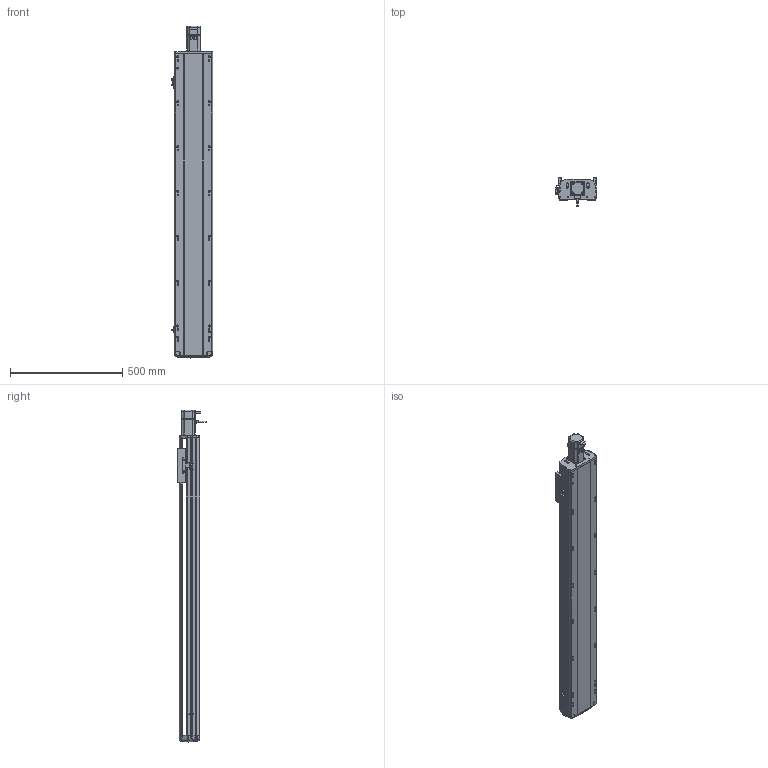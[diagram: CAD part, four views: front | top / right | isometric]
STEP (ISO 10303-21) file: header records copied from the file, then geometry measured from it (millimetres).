
FILE_DESCRIPTION (( 'STEP AP214' ), '1' );
FILE_NAME ('RTH17-XX-1100-E-M40-C4.STEP', '2025-10-24T05:45:31', ( '' ), ( '' ), 'SwSTEP 2.0', 'SolidWorks 2018', '' );
FILE_SCHEMA (( 'AUTOMOTIVE_DESIGN' ));
Length unit declared in the file: millimetre
Products named in the file (9): N_OMRON EE-SX672 換覜ん^RTH17-XX-XX-E-M40-C4ㄗ源最宒ㄘ; N_M40^RTH17-XX-XX-E-M40-C4（方程式）; N_RTH17-E-008-P40电机板^RTH17-XX-XX-E-M40-C4（方程式）; N_RTH17-E-004丝杆螺母连接座^RTH17-XX-XX-E-M40-C4（方程式）; RTH17-XX-1100-E-M40-C4; N_RTH17-E-011底座^RTH17-XX-XX-E-M40-C4（方程式）; N_RTH17-E-007上盖^RTH17-XX-XX-E-M40-C4（方程式）; N_RTH17-GY-001P^RTH17-XX-XX-E-M40-C4（方程式）; N_RTH-BL-012 感应片(外置)^RTH17-XX-XX-E-M40-C4（方程式）
Assembly tree (10 placements, depth 2):
  RTH17-XX-1100-E-M40-C4
    N_RTH17-E-011底座^RTH17-XX-XX-E-M40-C4（方程式）
    N_RTH17-E-007上盖^RTH17-XX-XX-E-M40-C4（方程式）
    N_RTH17-E-008-P40电机板^RTH17-XX-XX-E-M40-C4（方程式）
    N_OMRON EE-SX672 換覜ん^RTH17-XX-XX-E-M40-C4ㄗ源最宒ㄘ  x3
    N_RTH-BL-012 感应片(外置)^RTH17-XX-XX-E-M40-C4（方程式）
    N_RTH17-E-004丝杆螺母连接座^RTH17-XX-XX-E-M40-C4（方程式）
    N_RTH17-GY-001P^RTH17-XX-XX-E-M40-C4（方程式）
    N_M40^RTH17-XX-XX-E-M40-C4（方程式）
Bounding box: 183.5 x 127 x 1480.69 mm (x, y, z)
Volume: 10532909.2 mm3; surface area: 1395792.1 mm2
Topology: 9 solids, 11 shells, 1713 faces, 4819 edges, 3146 vertices
Faces by surface type: plane 833, cylinder 513, bspline 330, cone 28, torus 9
Entity records: 51101 total; most frequent: CARTESIAN_POINT 20286, ORIENTED_EDGE 6662, DIRECTION 5535, EDGE_CURVE 3335, VERTEX_POINT 2182, AXIS2_PLACEMENT_3D 1852, VECTOR 1831, LINE 1831
